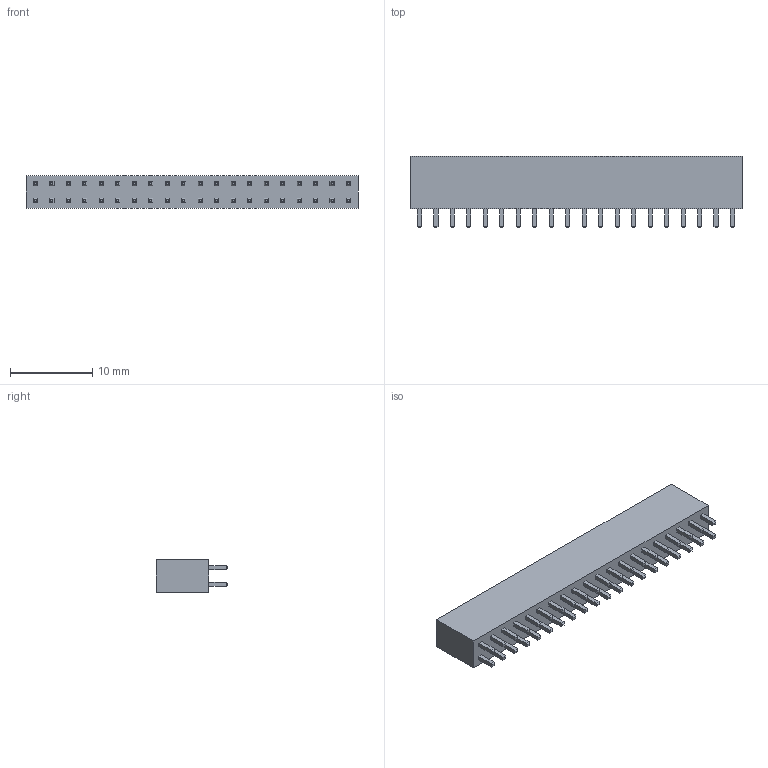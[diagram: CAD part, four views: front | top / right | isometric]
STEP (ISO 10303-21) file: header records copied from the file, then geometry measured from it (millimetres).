
FILE_DESCRIPTION (( 'STEP AP214' ), '1' );
FILE_NAME ('Samtec-SQT-120-01-F-D.step', '2015-04-02T19:28:48', ( 'Windows User' ), ( '' ), 'SwSTEP 2.0', 'SolidWorks 2015', '' );
FILE_SCHEMA (( 'AUTOMOTIVE_DESIGN' ));
Length unit declared in the file: inch
Products named in the file (1): Samtec-SQT-120-01-F-D
Bounding box: 40.3 x 8.64 x 4 mm (x, y, z)
Volume: 985.9 mm3; surface area: 1455.4 mm2
Topology: 1 solids, 1 shells, 726 faces, 1612 edges, 968 vertices
Faces by surface type: plane 726
Entity records: 23994 total; most frequent: CARTESIAN_POINT 3307, ORIENTED_EDGE 3224, DIRECTION 3066, LINE 1612, VECTOR 1612, EDGE_CURVE 1612, VERTEX_POINT 968, EDGE_LOOP 806
